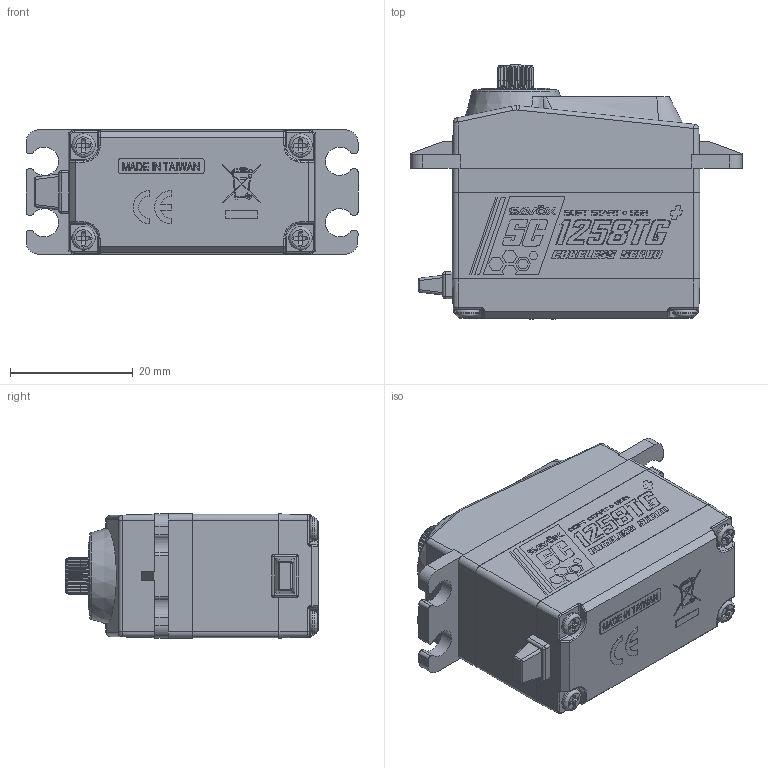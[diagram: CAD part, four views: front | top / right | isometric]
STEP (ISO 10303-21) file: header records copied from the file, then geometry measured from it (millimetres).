
FILE_DESCRIPTION (( 'STEP AP214' ), '1' );
FILE_NAME ('SC-1258TG+_3D??+??.STEP', '2025-04-16T08:14:32', ( '' ), ( '' ), 'SwSTEP 2.0', 'SolidWorks 2024', '' );
FILE_SCHEMA (( 'AUTOMOTIVE_DESIGN' ));
Length unit declared in the file: millimetre
Products named in the file (1): SC-1258TG+_3D零件+齒輪
Bounding box: 54 x 41.3 x 20.2 mm (x, y, z)
Volume: 28711.6 mm3; surface area: 6583.9 mm2
Topology: 1 solids, 1 shells, 965 faces, 4902 edges, 4114 vertices
Faces by surface type: plane 561, cylinder 219, bspline 99, cone 86
Full cylindrical faces by diameter (mm): 0.287 x1, 0.547 x1, 2.5 x1, 3.8 x4, 6.1 x1, 8.6 x1, 11 x1
Entity records: 65987 total; most frequent: CARTESIAN_POINT 17885, ORIENTED_EDGE 9724, DIRECTION 5557, EDGE_CURVE 4862, VERTEX_POINT 4103, VECTOR 2881, LINE 2881, B_SPLINE_CURVE_WITH_KNOTS 1454
